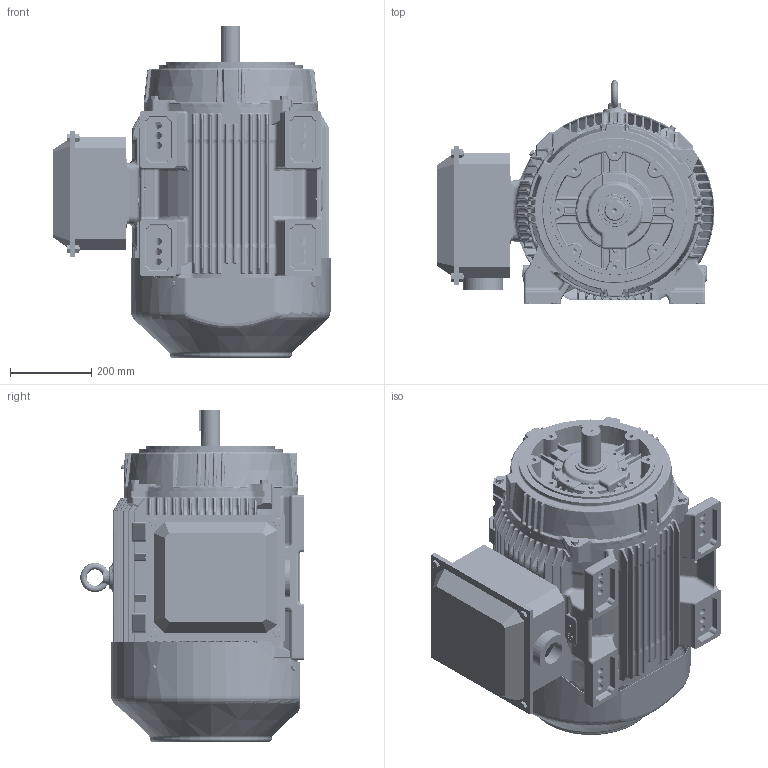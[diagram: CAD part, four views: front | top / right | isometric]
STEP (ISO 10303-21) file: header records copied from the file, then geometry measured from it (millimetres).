
FILE_DESCRIPTION (( 'STEP AP203' ), '1' );
FILE_NAME ('SS557000-200_RevC.STEP', '2020-11-17T06:14:21', ( '' ), ( '' ), 'SwSTEP 2.0', 'SolidWorks 2018', '' );
FILE_SCHEMA (( 'CONFIG_CONTROL_DESIGN' ));
Products named in the file (1): SS557000-200_RevC
Bounding box: 681.5 x 549.5 x 816.75 mm (x, y, z)
Volume: 24515367.5 mm3; surface area: 5530192.7 mm2
Topology: 66 solids, 66 shells, 9743 faces, 23812 edges, 13840 vertices
Faces by surface type: cylinder 3087, bspline 2732, plane 1357, torus 1349, cone 780, sphere 438
Entity records: 398536 total; most frequent: CARTESIAN_POINT 188188, ORIENTED_EDGE 46612, DIRECTION 41703, EDGE_CURVE 23306, AXIS2_PLACEMENT_3D 18041, VERTEX_POINT 13824, CIRCLE 11029, EDGE_LOOP 10604
